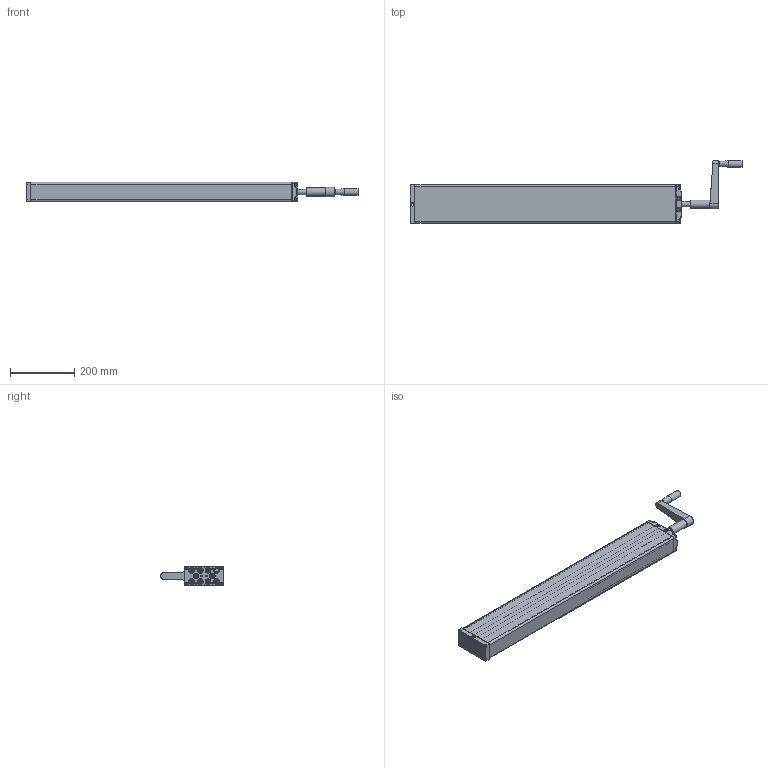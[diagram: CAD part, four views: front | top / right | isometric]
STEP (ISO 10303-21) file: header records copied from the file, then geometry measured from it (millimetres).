
FILE_DESCRIPTION(/* description */ ('Unknown'),/* implementation_level */ '2;1');
FILE_NAME(/* name */ '312.20276 Pumpe PB 9860 W mit Handkurbel',/* time_stamp */ '2016-11-25T15:22:17+01:00',/* author */ ('Unknown'),/* organization */ ('Unknown'),/* preprocessor_version */ 'ST-DEVELOPER v16.7',/* originating_system */ 'DEX',/* authorisation */ $);
FILE_SCHEMA (('AUTOMOTIVE_DESIGN {1 0 10303 214 3 1 1}'));
Products named in the file (23): 102.00276; 115.10036; 125.00061; 115.00008; 142.00021; 125.00021; 113.00005; 128.00001; 125.00052; 126.00013; 125.00053; 127.00014; Handgriff; 142.00013; 125.00146; 115.00140; 126.00006; 122.00040; 119.00046; 126.00036; 142.00057; 142.00083; 142.00017
Assembly tree (41 placements, depth 3):
  102.00276
    115.10036  x9
      125.00061
      115.00008
      142.00021
      125.00021
    113.00005
      128.00001
      125.00052
      126.00013
      125.00053
      127.00014
      Handgriff
    142.00013  x8
    125.00146
    115.00140
      126.00006
      122.00040
    119.00046
    126.00036
    142.00057
    142.00083  x4
    142.00017  x2
Bounding box: 1032.75 x 195.5 x 60.3 mm (x, y, z)
Volume: 1169466.7 mm3; surface area: 761689.5 mm2
Topology: 53 solids, 53 shells, 2290 faces, 5189 edges, 3047 vertices
Faces by surface type: plane 839, cylinder 523, bspline 380, cone 377, torus 112, sphere 59
Full cylindrical faces by diameter (mm): 3.5 x9, 4 x2, 4.1 x9, 4.134 x4, 4.2 x10, 4.917 x4, 5 x12, 5.8 x4, 6 x2, 6.8 x1, 6.917 x18, 8 x20, 8.5 x4, 9.8 x8, 10 x6, 10.4 x1, 10.5 x4, 12.5 x9, 12.8 x1, 13 x29, 14 x1, 14.4 x9, 16 x2, 17 x1, 17.9 x18, 18 x11, 19 x1, 20.6 x1, 21 x1, 22 x1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
Entity records: 64077 total; most frequent: CARTESIAN_POINT 30508, ORIENTED_EDGE 5368, DIRECTION 4821, EDGE_CURVE 2684, AXIS2_PLACEMENT_3D 1877, VERTEX_POINT 1709, FACE_BOUND 1541, EDGE_LOOP 1538
